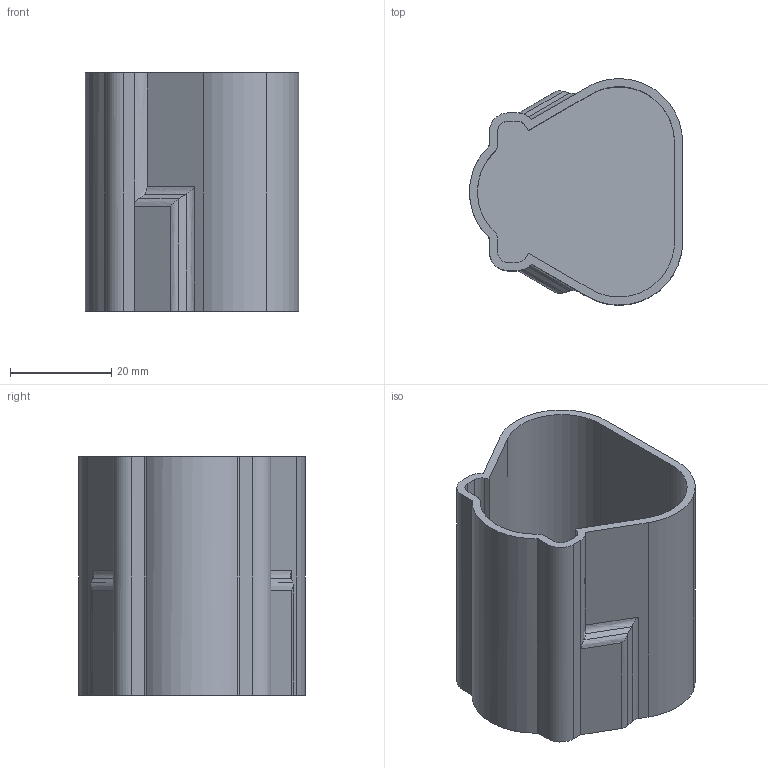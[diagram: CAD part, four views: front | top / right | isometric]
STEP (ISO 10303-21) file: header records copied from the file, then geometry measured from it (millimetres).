
FILE_DESCRIPTION(/* description */ (''),/* implementation_level */ '2;1');
FILE_NAME(/* name */ 'BATTER~1',/* time_stamp */ '2020-03-21T19:11:18+01:00',/* author */ (''),/* organization */ (''),/* preprocessor_version */ 'ST-DEVELOPER v16.5',/* originating_system */ '',/* authorisation */ '');
FILE_SCHEMA (('AUTOMOTIVE_DESIGN'));
Length unit declared in the file: millimetre
Products named in the file (1): Document
Bounding box: 42.2 x 44.82 x 47.15 mm (x, y, z)
Surface area: 16768.4 mm2 (no closed solid volume)
Topology: 0 solids, 1 shells, 123 faces, 343 edges, 228 vertices
Faces by surface type: bspline 66, plane 57
Entity records: 4157 total; most frequent: CARTESIAN_POINT 2088, ORIENTED_EDGE 686, EDGE_CURVE 343, VERTEX_POINT 228, B_SPLINE_CURVE_WITH_KNOTS 200, EDGE_LOOP 134, ADVANCED_FACE 123, FACE_OUTER_BOUND 123
